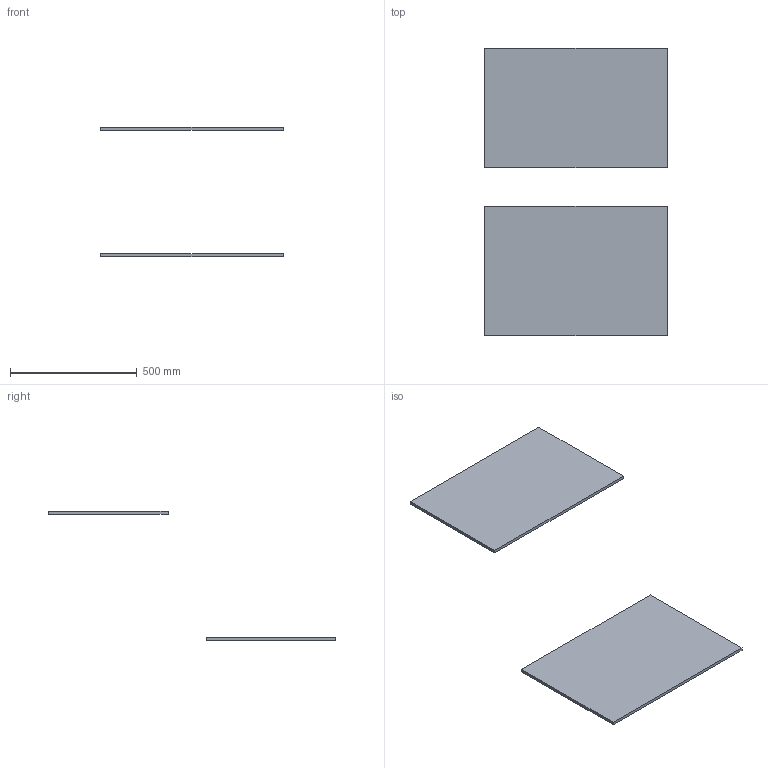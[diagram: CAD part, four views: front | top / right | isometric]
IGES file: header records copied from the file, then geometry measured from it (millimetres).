
Start section: Data from Parasolid IGES Translator 22.0.50, Copyright(c) 2006 Siemens P LM Software. All Rights Reserved.
Global section: file name: noorth-top-H 1,2 _2951.igs; native system: By Siemens PLM Incorporated; preprocessor: XPlus GENERIC/IGES 22.0.50; author: Noname; organization: Noname; date: 20251109.205027; units: metre
Bounding box: 720 x 1135.35 x 512 mm (x, y, z)
Volume: 8510400 mm3; surface area: 1476600 mm2
Topology: 2 solids, 2 shells, 12 faces, 24 edges, 16 vertices
Faces by surface type: plane 12
